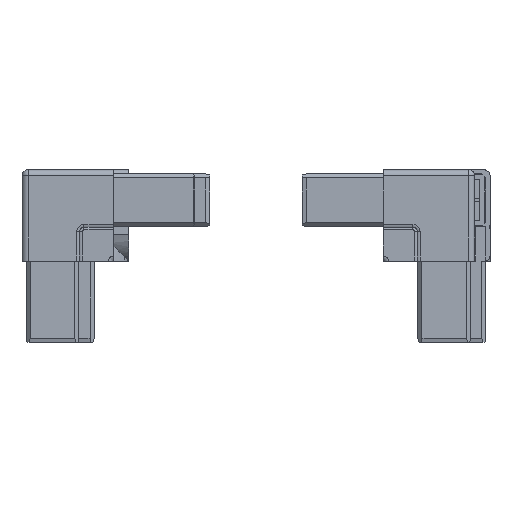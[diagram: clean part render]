
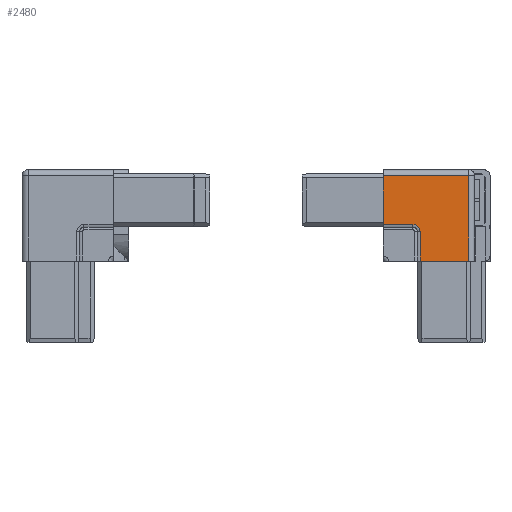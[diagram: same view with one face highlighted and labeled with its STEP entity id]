
A CAD part, front view. The second image highlights one B-rep face of the part: STEP entity #2480.
In plain terms, the highlighted planar face has unit normal (0, -1, 0) as drawn and (1, 0, 0) by its records, which use the part's own axes.
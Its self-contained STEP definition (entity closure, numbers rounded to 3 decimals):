
#26 = EDGE_CURVE ( 'NONE', #3789, #3642, #4447, .T. ) ;
#175 = VECTOR ( 'NONE', #3739, 1000. ) ;
#225 = EDGE_CURVE ( 'NONE', #1374, #3670, #679, .T. ) ;
#333 = AXIS2_PLACEMENT_3D ( 'NONE', #4019, #3695, #2215 ) ;
#414 = CARTESIAN_POINT ( 'NONE',  ( 22.5, 4.475, -30. ) ) ;
#434 = CARTESIAN_POINT ( 'NONE',  ( 22.5, -19.5, 15. ) ) ;
#501 = AXIS2_PLACEMENT_3D ( 'NONE', #558, #3763, #1639 ) ;
#510 = CARTESIAN_POINT ( 'NONE',  ( 22.5, -22.5, -30. ) ) ;
#558 = CARTESIAN_POINT ( 'NONE',  ( 22.5, 8., -15.5 ) ) ;
#674 = EDGE_CURVE ( 'NONE', #3670, #3393, #3567, .T. ) ;
#679 = LINE ( 'NONE', #2072, #3338 ) ;
#810 = ORIENTED_EDGE ( 'NONE', *, *, #674, .T. ) ;
#846 = CARTESIAN_POINT ( 'NONE',  ( 22.5, 4.475, -15.5 ) ) ;
#937 = CARTESIAN_POINT ( 'NONE',  ( 22.5, 4.475, -15.5 ) ) ;
#938 = ORIENTED_EDGE ( 'NONE', *, *, #26, .T. ) ;
#979 = CARTESIAN_POINT ( 'NONE',  ( 22.5, 22.5, 15. ) ) ;
#1067 = DIRECTION ( 'NONE',  ( 0., -1., 0. ) ) ;
#1176 = DIRECTION ( 'NONE',  ( 0., -1., 0. ) ) ;
#1185 = FACE_OUTER_BOUND ( 'NONE', #1884, .T. ) ;
#1374 = VERTEX_POINT ( 'NONE', #1982 ) ;
#1469 = CARTESIAN_POINT ( 'NONE',  ( 22.5, -19.5, 12. ) ) ;
#1577 = VECTOR ( 'NONE', #2775, 1000. ) ;
#1580 = VERTEX_POINT ( 'NONE', #3964 ) ;
#1639 = DIRECTION ( 'NONE',  ( 0., 0., 1. ) ) ;
#1884 = EDGE_LOOP ( 'NONE', ( #2592, #3093, #3819, #810, #4192, #3988, #938 ) ) ;
#1908 = LINE ( 'NONE', #510, #3833 ) ;
#1982 = CARTESIAN_POINT ( 'NONE',  ( 22.5, 22.5, 12. ) ) ;
#2003 = CARTESIAN_POINT ( 'NONE',  ( 22.5, 8., -11.975 ) ) ;
#2072 = CARTESIAN_POINT ( 'NONE',  ( 22.5, -22.5, 12. ) ) ;
#2186 = VECTOR ( 'NONE', #4112, 1000. ) ;
#2213 = EDGE_CURVE ( 'NONE', #3789, #3693, #3092, .T. ) ;
#2215 = DIRECTION ( 'NONE',  ( 0., 0., 1. ) ) ;
#2240 = DIRECTION ( 'NONE',  ( 0., 0., -1. ) ) ;
#2480 = ADVANCED_FACE ( 'NONE', ( #1185 ), #2945, .F. ) ;
#2496 = CARTESIAN_POINT ( 'NONE',  ( 22.5, 8., -11.975 ) ) ;
#2565 = EDGE_CURVE ( 'NONE', #1374, #1580, #2768, .T. ) ;
#2592 = ORIENTED_EDGE ( 'NONE', *, *, #4306, .T. ) ;
#2768 = LINE ( 'NONE', #979, #2186 ) ;
#2775 = DIRECTION ( 'NONE',  ( 0., 0., -1. ) ) ;
#2945 = PLANE ( 'NONE',  #333 ) ;
#3092 = LINE ( 'NONE', #937, #1577 ) ;
#3093 = ORIENTED_EDGE ( 'NONE', *, *, #2565, .F. ) ;
#3195 = VECTOR ( 'NONE', #2240, 1000. ) ;
#3318 = CARTESIAN_POINT ( 'NONE',  ( 22.5, -19.5, -30. ) ) ;
#3338 = VECTOR ( 'NONE', #1067, 1000. ) ;
#3393 = VERTEX_POINT ( 'NONE', #3318 ) ;
#3567 = LINE ( 'NONE', #434, #3195 ) ;
#3642 = VERTEX_POINT ( 'NONE', #2496 ) ;
#3670 = VERTEX_POINT ( 'NONE', #1469 ) ;
#3693 = VERTEX_POINT ( 'NONE', #414 ) ;
#3695 = DIRECTION ( 'NONE',  ( -1., 0., 0. ) ) ;
#3739 = DIRECTION ( 'NONE',  ( 0., 1., 0. ) ) ;
#3763 = DIRECTION ( 'NONE',  ( -1., 0., 0. ) ) ;
#3789 = VERTEX_POINT ( 'NONE', #846 ) ;
#3819 = ORIENTED_EDGE ( 'NONE', *, *, #225, .T. ) ;
#3833 = VECTOR ( 'NONE', #1176, 1000. ) ;
#3964 = CARTESIAN_POINT ( 'NONE',  ( 22.5, 22.5, -11.975 ) ) ;
#3988 = ORIENTED_EDGE ( 'NONE', *, *, #2213, .F. ) ;
#4019 = CARTESIAN_POINT ( 'NONE',  ( 22.5, -22.5, 15. ) ) ;
#4035 = LINE ( 'NONE', #2003, #175 ) ;
#4112 = DIRECTION ( 'NONE',  ( 0., 0., -1. ) ) ;
#4192 = ORIENTED_EDGE ( 'NONE', *, *, #4516, .F. ) ;
#4306 = EDGE_CURVE ( 'NONE', #3642, #1580, #4035, .T. ) ;
#4447 = CIRCLE ( 'NONE', #501, 3.525 ) ;
#4516 = EDGE_CURVE ( 'NONE', #3693, #3393, #1908, .T. ) ;
